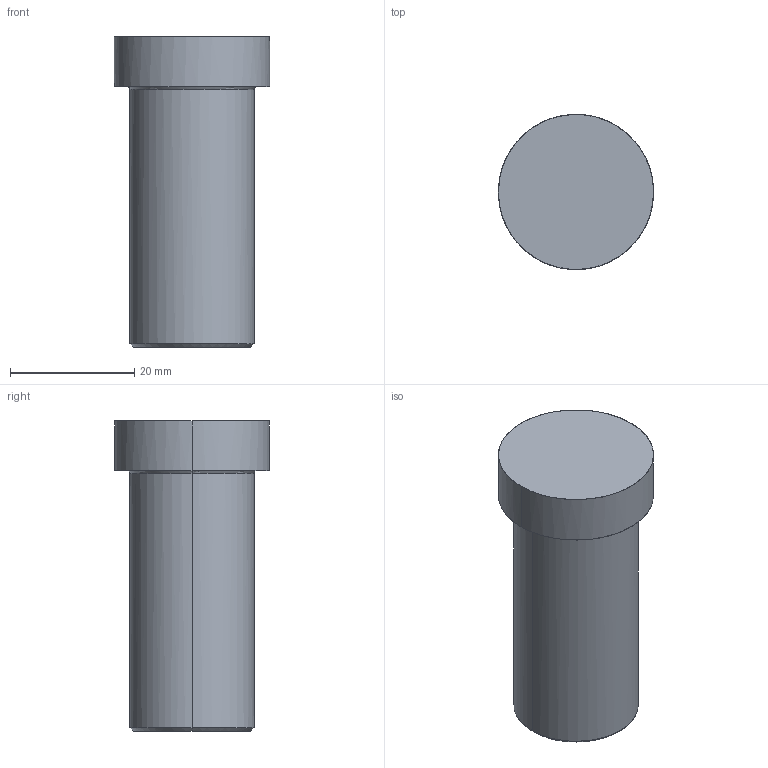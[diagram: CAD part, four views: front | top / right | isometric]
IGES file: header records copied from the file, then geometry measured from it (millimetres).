
Global section: file name: E:\UnigraphicsGraphicData\MISUMI_PRESS-PARTS\IGES\3d_hcup20-50_01339_r00.igs; native system: NX V5.0; preprocessor: UGS NX IGES V5.0; author: MISUMI; date: 20110105.160934; units: millimetre
Bounding box: 25 x 25 x 50 mm (x, y, z)
Surface area: 4219.9 mm2 (no closed solid volume)
Topology: 0 solids, 0 shells, 11 faces, 64 edges, 64 vertices
Faces by surface type: bspline 11
